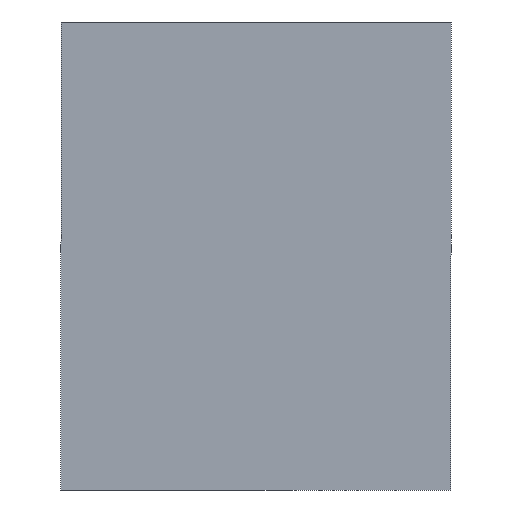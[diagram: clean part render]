
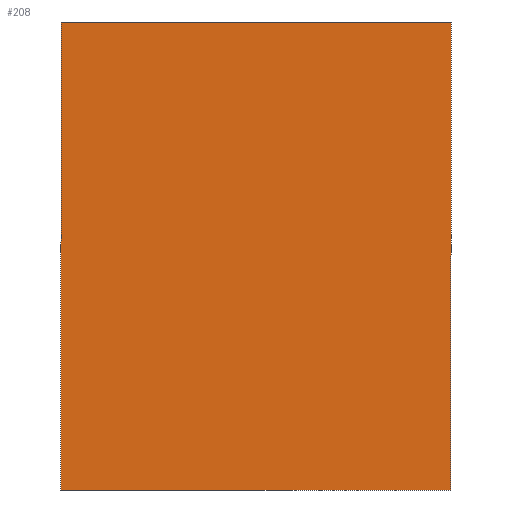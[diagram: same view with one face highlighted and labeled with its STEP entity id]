
A CAD part, front view. The second image highlights one B-rep face of the part: STEP entity #208.
In plain terms, the highlighted planar face has unit normal (0, -1, 0).
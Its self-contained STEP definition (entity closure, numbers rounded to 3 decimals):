
#27 = EDGE_LOOP ( 'NONE', ( #54, #191, #65, #286 ) ) ;
#35 = CARTESIAN_POINT ( 'NONE',  ( 25., 0., -30. ) ) ;
#43 = VERTEX_POINT ( 'NONE', #225 ) ;
#46 = CARTESIAN_POINT ( 'NONE',  ( -25., 0., 30. ) ) ;
#52 = CARTESIAN_POINT ( 'NONE',  ( 25., 0., -30. ) ) ;
#54 = ORIENTED_EDGE ( 'NONE', *, *, #74, .F. ) ;
#56 = VERTEX_POINT ( 'NONE', #125 ) ;
#65 = ORIENTED_EDGE ( 'NONE', *, *, #137, .F. ) ;
#74 = EDGE_CURVE ( 'NONE', #56, #251, #128, .T. ) ;
#77 = DIRECTION ( 'NONE',  ( 0., 1., 0. ) ) ;
#80 = DIRECTION ( 'NONE',  ( 0., 0., -1. ) ) ;
#81 = CARTESIAN_POINT ( 'NONE',  ( 0., 0., 0. ) ) ;
#106 = EDGE_CURVE ( 'NONE', #251, #43, #143, .T. ) ;
#112 = DIRECTION ( 'NONE',  ( 1., 0., 0. ) ) ;
#125 = CARTESIAN_POINT ( 'NONE',  ( 25., 0., 30. ) ) ;
#126 = AXIS2_PLACEMENT_3D ( 'NONE', #81, #77, #199 ) ;
#128 = LINE ( 'NONE', #52, #291 ) ;
#136 = CARTESIAN_POINT ( 'NONE',  ( -25., 0., -30. ) ) ;
#137 = EDGE_CURVE ( 'NONE', #43, #357, #260, .T. ) ;
#143 = LINE ( 'NONE', #136, #249 ) ;
#177 = FACE_OUTER_BOUND ( 'NONE', #27, .T. ) ;
#191 = ORIENTED_EDGE ( 'NONE', *, *, #222, .F. ) ;
#199 = DIRECTION ( 'NONE',  ( 0., 0., 1. ) ) ;
#201 = DIRECTION ( 'NONE',  ( -1., 0., 0. ) ) ;
#206 = CARTESIAN_POINT ( 'NONE',  ( -25., 0., -30. ) ) ;
#208 = ADVANCED_FACE ( 'NONE', ( #177 ), #261, .F. ) ;
#222 = EDGE_CURVE ( 'NONE', #357, #56, #302, .T. ) ;
#225 = CARTESIAN_POINT ( 'NONE',  ( -25., 0., -30. ) ) ;
#232 = DIRECTION ( 'NONE',  ( 0., 0., 1. ) ) ;
#249 = VECTOR ( 'NONE', #201, 1000. ) ;
#251 = VERTEX_POINT ( 'NONE', #35 ) ;
#260 = LINE ( 'NONE', #206, #353 ) ;
#261 = PLANE ( 'NONE',  #126 ) ;
#286 = ORIENTED_EDGE ( 'NONE', *, *, #106, .F. ) ;
#291 = VECTOR ( 'NONE', #80, 1000. ) ;
#302 = LINE ( 'NONE', #46, #324 ) ;
#311 = CARTESIAN_POINT ( 'NONE',  ( -25., 0., 30. ) ) ;
#324 = VECTOR ( 'NONE', #112, 1000. ) ;
#353 = VECTOR ( 'NONE', #232, 1000. ) ;
#357 = VERTEX_POINT ( 'NONE', #311 ) ;
